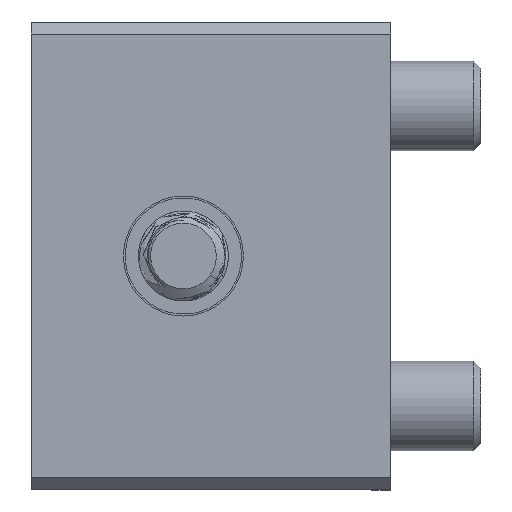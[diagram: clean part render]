
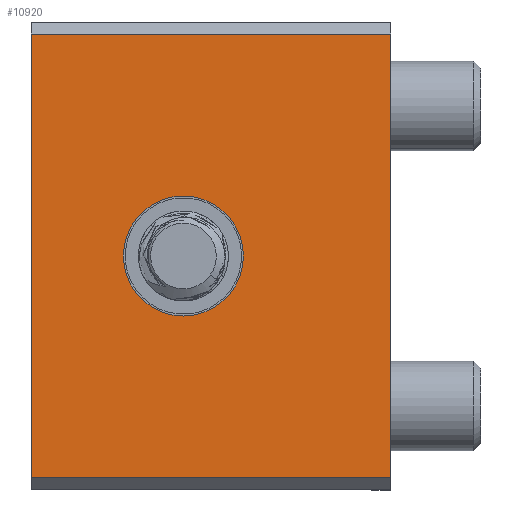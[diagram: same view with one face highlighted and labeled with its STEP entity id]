
A CAD part, left-side view. The second image highlights one B-rep face of the part: STEP entity #10920.
In plain terms, the highlighted planar face has unit normal (-1, 0, 0).
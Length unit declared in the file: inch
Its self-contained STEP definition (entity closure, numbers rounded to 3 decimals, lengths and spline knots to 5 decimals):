
#174 = LINE ( 'NONE', #8271, #2032 ) ;
#793 = EDGE_LOOP ( 'NONE', ( #5003, #4960, #10337, #7900 ) ) ;
#1122 = VERTEX_POINT ( 'NONE', #3869 ) ;
#1395 = EDGE_CURVE ( 'NONE', #3018, #4110, #8957, .T. ) ;
#1594 = PLANE ( 'NONE',  #4738 ) ;
#2032 = VECTOR ( 'NONE', #9175, 39.37008 ) ;
#2116 = ORIENTED_EDGE ( 'NONE', *, *, #8443, .F. ) ;
#2449 = VERTEX_POINT ( 'NONE', #6344 ) ;
#2484 = CARTESIAN_POINT ( 'NONE',  ( -0.975, 0.75, 0.925 ) ) ;
#2523 = CARTESIAN_POINT ( 'NONE',  ( -0.975, 0.75, -0.975 ) ) ;
#2612 = VECTOR ( 'NONE', #6730, 39.37008 ) ;
#2784 = CIRCLE ( 'NONE', #11294, 0.25 ) ;
#2818 = DIRECTION ( 'NONE',  ( -1., 0., 0. ) ) ;
#2912 = DIRECTION ( 'NONE',  ( -1., 0., 0. ) ) ;
#3018 = VERTEX_POINT ( 'NONE', #3153 ) ;
#3153 = CARTESIAN_POINT ( 'NONE',  ( -0.975, -0.75, 0.925 ) ) ;
#3250 = CARTESIAN_POINT ( 'NONE',  ( -0.975, -0.135, 0. ) ) ;
#3444 = DIRECTION ( 'NONE',  ( 0., -1., 0. ) ) ;
#3532 = DIRECTION ( 'NONE',  ( 0., -1., 0. ) ) ;
#3601 = EDGE_LOOP ( 'NONE', ( #4267, #2116 ) ) ;
#3869 = CARTESIAN_POINT ( 'NONE',  ( -0.975, 0.75, -0.925 ) ) ;
#3987 = CARTESIAN_POINT ( 'NONE',  ( -0.975, 0.75, -0.975 ) ) ;
#4110 = VERTEX_POINT ( 'NONE', #2484 ) ;
#4207 = FACE_OUTER_BOUND ( 'NONE', #793, .T. ) ;
#4267 = ORIENTED_EDGE ( 'NONE', *, *, #9627, .F. ) ;
#4514 = CARTESIAN_POINT ( 'NONE',  ( -0.975, 0.75, 0.925 ) ) ;
#4738 = AXIS2_PLACEMENT_3D ( 'NONE', #2523, #8900, #3444 ) ;
#4868 = VERTEX_POINT ( 'NONE', #10002 ) ;
#4922 = EDGE_CURVE ( 'NONE', #2449, #3018, #174, .T. ) ;
#4960 = ORIENTED_EDGE ( 'NONE', *, *, #1395, .T. ) ;
#5003 = ORIENTED_EDGE ( 'NONE', *, *, #4922, .T. ) ;
#5041 = LINE ( 'NONE', #3987, #2612 ) ;
#5889 = VECTOR ( 'NONE', #3532, 39.37008 ) ;
#6344 = CARTESIAN_POINT ( 'NONE',  ( -0.975, -0.75, -0.925 ) ) ;
#6430 = CIRCLE ( 'NONE', #11809, 0.25 ) ;
#6472 = EDGE_CURVE ( 'NONE', #1122, #2449, #8286, .T. ) ;
#6546 = VECTOR ( 'NONE', #7260, 39.37008 ) ;
#6730 = DIRECTION ( 'NONE',  ( 0., 0., 1. ) ) ;
#7260 = DIRECTION ( 'NONE',  ( 0., 1., 0. ) ) ;
#7900 = ORIENTED_EDGE ( 'NONE', *, *, #6472, .T. ) ;
#8271 = CARTESIAN_POINT ( 'NONE',  ( -0.975, -0.75, -0.975 ) ) ;
#8283 = CARTESIAN_POINT ( 'NONE',  ( -0.975, 0.115, 0. ) ) ;
#8286 = LINE ( 'NONE', #8990, #5889 ) ;
#8362 = CARTESIAN_POINT ( 'NONE',  ( -0.975, 0.115, 0. ) ) ;
#8443 = EDGE_CURVE ( 'NONE', #4868, #10802, #6430, .T. ) ;
#8900 = DIRECTION ( 'NONE',  ( -1., 0., 0. ) ) ;
#8957 = LINE ( 'NONE', #4514, #6546 ) ;
#8990 = CARTESIAN_POINT ( 'NONE',  ( -0.975, -0.75, -0.925 ) ) ;
#9025 = FACE_BOUND ( 'NONE', #3601, .T. ) ;
#9175 = DIRECTION ( 'NONE',  ( 0., 0., 1. ) ) ;
#9188 = DIRECTION ( 'NONE',  ( 0., -1., 0. ) ) ;
#9277 = DIRECTION ( 'NONE',  ( 0., -1., 0. ) ) ;
#9627 = EDGE_CURVE ( 'NONE', #10802, #4868, #2784, .T. ) ;
#10002 = CARTESIAN_POINT ( 'NONE',  ( -0.975, 0.365, 0. ) ) ;
#10337 = ORIENTED_EDGE ( 'NONE', *, *, #11555, .F. ) ;
#10802 = VERTEX_POINT ( 'NONE', #3250 ) ;
#10920 = ADVANCED_FACE ( 'NONE', ( #9025, #4207 ), #1594, .T. ) ;
#11294 = AXIS2_PLACEMENT_3D ( 'NONE', #8283, #2818, #9188 ) ;
#11555 = EDGE_CURVE ( 'NONE', #1122, #4110, #5041, .T. ) ;
#11809 = AXIS2_PLACEMENT_3D ( 'NONE', #8362, #2912, #9277 ) ;
